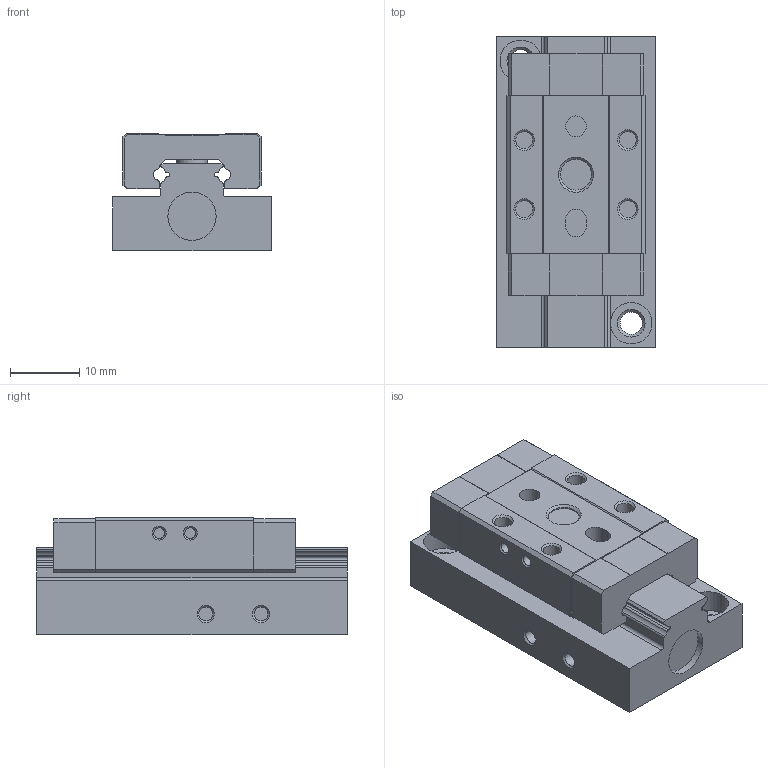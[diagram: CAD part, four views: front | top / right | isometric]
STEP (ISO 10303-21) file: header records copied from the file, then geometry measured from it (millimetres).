
FILE_DESCRIPTION(/* description */ ('STEP AP214'),/* implementation_level */ '2;1');
FILE_NAME(/* name */ 'HGS6X5(0)',/* time_stamp */ '2024-09-22T09:39:57+02:00',/* author */ ('License CC BY-ND 4.0'),/* organization */ ('CADENAS'),/* preprocessor_version */ 'ST-DEVELOPER v19.3',/* originating_system */ 'PARTsolutions',/* authorisation */ ' ');
FILE_SCHEMA (('AUTOMOTIVE_DESIGN {1 0 10303 214 3 1 1}'));
Length unit declared in the file: millimetre
Products named in the file (4): HGS6X5(0); HGS6X5(0)_dummy; HGS6X5(0)_body; HGS6X5(0)_t
Assembly tree (3 placements, depth 2):
  HGS6X5(0)
    HGS6X5(0)_dummy
    HGS6X5(0)_body
    HGS6X5(0)_t
Bounding box: 23 x 45 x 17 mm (x, y, z)
Volume: 12990.2 mm3; surface area: 7296.2 mm2
Topology: 2 solids, 2 shells, 160 faces, 383 edges, 250 vertices
Faces by surface type: plane 90, cylinder 52, cone 18
Full cylindrical faces by diameter (mm): 1.567 x4, 2.013 x4, 2.459 x6, 3 x2, 3.242 x2, 4.5 x2, 6 x2, 7 x2
Entity records: 4510 total; most frequent: DIRECTION 788, CARTESIAN_POINT 749, ORIENTED_EDGE 676, EDGE_CURVE 338, AXIS2_PLACEMENT_3D 286, VERTEX_POINT 246, EDGE_LOOP 230, FACE_BOUND 230
